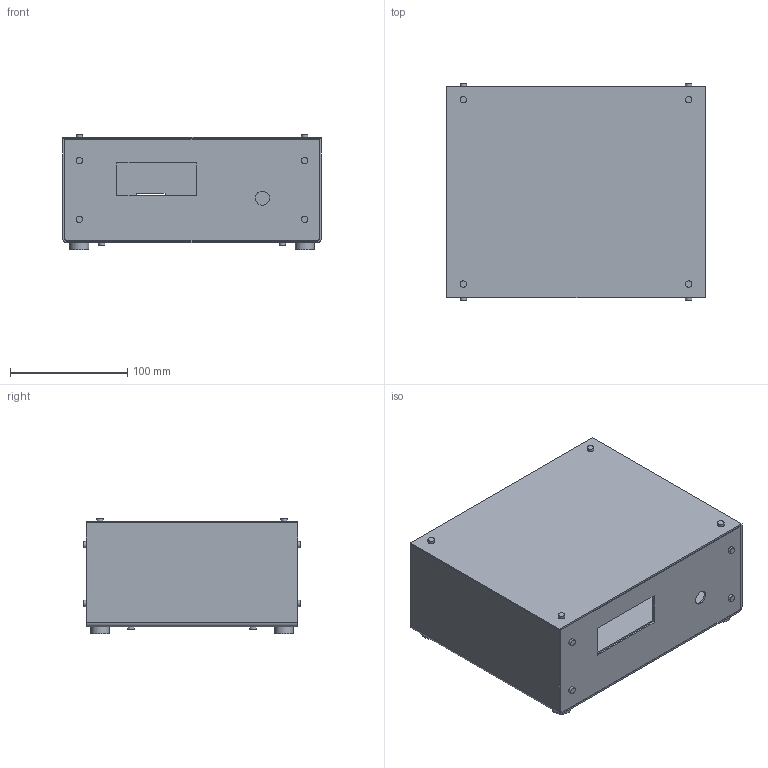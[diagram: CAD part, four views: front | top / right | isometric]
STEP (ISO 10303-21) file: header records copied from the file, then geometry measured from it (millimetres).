
FILE_DESCRIPTION(('Open CASCADE Model'),'2;1');
FILE_NAME('Open CASCADE Shape Model','2026-10-28T07:21:36',('Author'),( 'Open CASCADE'),'Open CASCADE STEP processor 7.8','Open CASCADE 7.8' ,'Unknown');
FILE_SCHEMA(('AUTOMOTIVE_DESIGN { 1 0 10303 214 1 1 1 1 }'));
Length unit declared in the file: millimetre
Products named in the file (50): instrument-enclosure-compact; u-shell; front-panel; rear-panel; lid; electronics-tray; corner-post-1; corner-post-2; corner-post-3; corner-post-4; tray-spacer-1; tray-spacer-2; tray-spacer-3; tray-spacer-4; pcb-spacer-1; pcb-spacer-2; pcb-spacer-3; pcb-spacer-4; lid-screw-1; base-screw-1; panel-screw-1-1; panel-screw-1-2; lid-screw-2; base-screw-2; panel-screw-2-1; panel-screw-2-2; lid-screw-3; base-screw-3; panel-screw-3-1; panel-screw-3-2; lid-screw-4; base-screw-4; panel-screw-4-1; panel-screw-4-2; tray-screw-1; tray-base-screw-1; tray-screw-2; tray-base-screw-2; tray-screw-3; tray-base-screw-3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
Assembly tree (49 placements, depth 2):
  instrument-enclosure-compact
    u-shell
    front-panel
    rear-panel
    lid
    electronics-tray
    corner-post-1
    corner-post-2
    corner-post-3
    corner-post-4
    tray-spacer-1
    tray-spacer-2
    tray-spacer-3
    tray-spacer-4
    pcb-spacer-1
    pcb-spacer-2
    pcb-spacer-3
    pcb-spacer-4
    lid-screw-1
    base-screw-1
    panel-screw-1-1
    panel-screw-1-2
    lid-screw-2
    base-screw-2
    panel-screw-2-1
    panel-screw-2-2
    lid-screw-3
    base-screw-3
    panel-screw-3-1
    panel-screw-3-2
    lid-screw-4
    base-screw-4
    panel-screw-4-1
    panel-screw-4-2
    tray-screw-1
    tray-base-screw-1
    tray-screw-2
    tray-base-screw-2
    tray-screw-3
    tray-base-screw-3
    tray-screw-4
    tray-base-screw-4
    pcb-spacer-screw-1
    pcb-spacer-screw-2
    pcb-spacer-screw-3
    pcb-spacer-screw-4
    foot-1
    foot-2
    foot-3
    foot-4
Bounding box: 220 x 185 x 98.5 mm (x, y, z)
Volume: 394791.5 mm3; surface area: 378989 mm2
Topology: 49 solids, 49 shells, 324 faces, 546 edges, 364 vertices
Faces by surface type: plane 190, cylinder 134
Full cylindrical faces by diameter (mm): 3 x52, 3.4 x28, 5.5 x28, 6 x12, 12 x1, 16 x5
Entity records: 16342 total; most frequent: CARTESIAN_POINT 2816, DIRECTION 2554, ORIENTED_EDGE 1092, PCURVE 1092, DEFINITIONAL_REPRESENTATION 1092, LINE 1070, VECTOR 1070, AXIS2_PLACEMENT_3D 642
